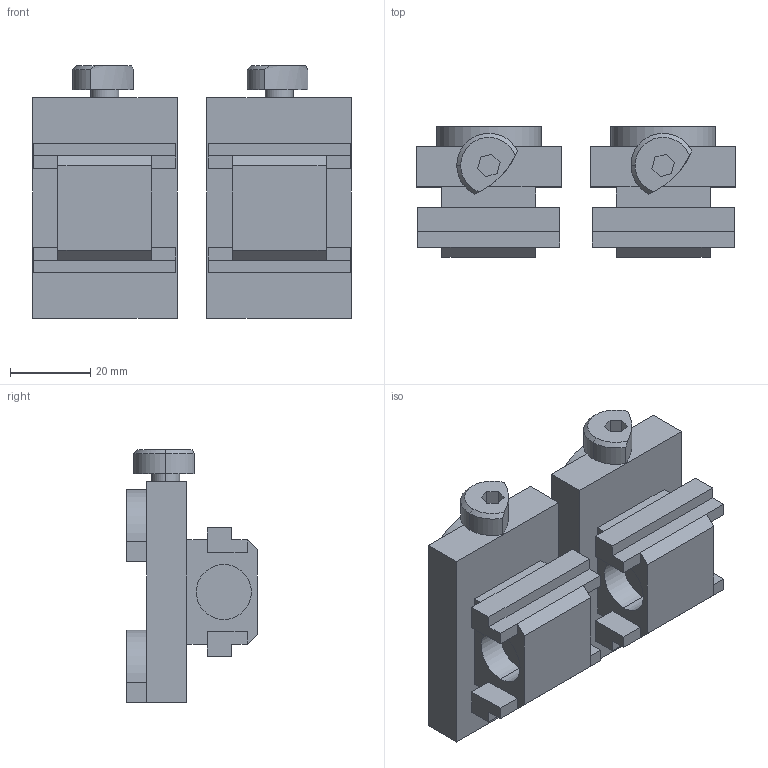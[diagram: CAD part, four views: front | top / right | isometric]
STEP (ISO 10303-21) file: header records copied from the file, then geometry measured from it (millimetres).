
FILE_DESCRIPTION (( 'STEP AP203' ), '1' );
FILE_NAME ('44461.STEP', '2016-11-28T13:18:58', ( '' ), ( '' ), 'SwSTEP 2.0', 'SolidWorks 2015', '' );
FILE_SCHEMA (( 'CONFIG_CONTROL_DESIGN' ));
Length unit declared in the file: millimetre
Products named in the file (2): 44461; 44461-01-02
Assembly tree (2 placements, depth 2):
  44461
    44461-01-02  x2
Bounding box: 79.4 x 32.55 x 63 mm (x, y, z)
Volume: 70425 mm3; surface area: 21085.5 mm2
Topology: 2 solids, 2 shells, 128 faces, 320 edges, 210 vertices
Faces by surface type: plane 102, cylinder 22, cone 4
Entity records: 2118 total; most frequent: CARTESIAN_POINT 340, DIRECTION 320, ORIENTED_EDGE 320, EDGE_CURVE 160, VECTOR 134, LINE 134, VERTEX_POINT 105, AXIS2_PLACEMENT_3D 93
